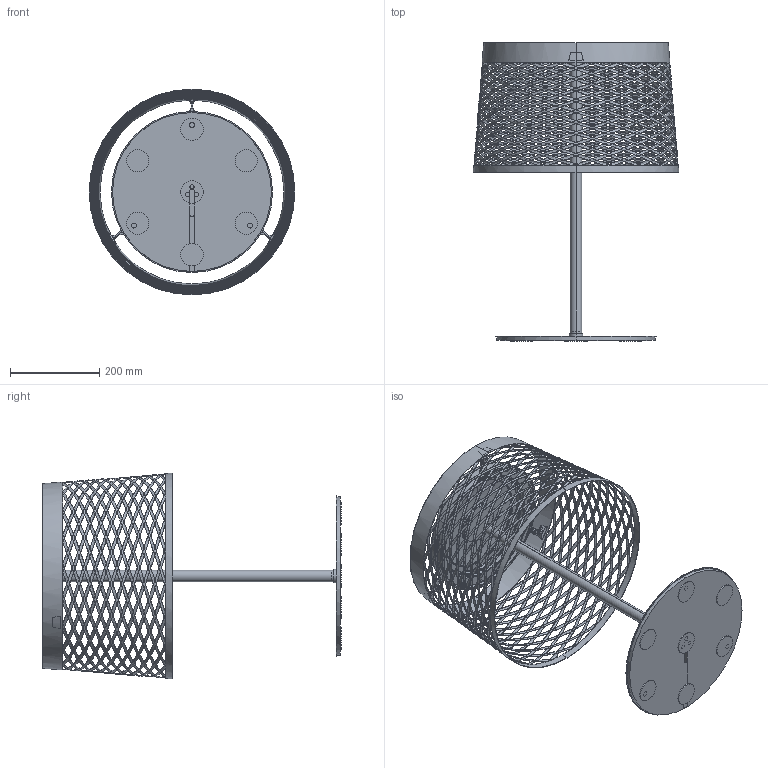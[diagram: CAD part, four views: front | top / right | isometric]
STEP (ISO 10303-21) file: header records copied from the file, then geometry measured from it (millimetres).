
FILE_DESCRIPTION (( 'STEP AP214' ), '1' );
FILE_NAME ('290_XL_OT_LD_2D.STEP', '2021-04-28T14:01:26', ( '' ), ( '' ), 'SwSTEP 2.0', 'SolidWorks 2021', '' );
FILE_SCHEMA (( 'AUTOMOTIVE_DESIGN' ));
Length unit declared in the file: millimetre
Products named in the file (1): 290_XL_OT_LD_2D
Bounding box: 460 x 667.7 x 460 mm (x, y, z)
Volume: 1409858 mm3; surface area: 1422914.5 mm2
Topology: 22 solids, 22 shells, 836 faces, 2133 edges, 1308 vertices
Faces by surface type: cylinder 255, bspline 224, plane 194, cone 87, torus 76
Entity records: 57082 total; most frequent: CARTESIAN_POINT 27858, ORIENTED_EDGE 4246, DIRECTION 4071, EDGE_CURVE 2123, AXIS2_PLACEMENT_3D 1709, VERTEX_POINT 1308, CIRCLE 1096, EDGE_LOOP 971
